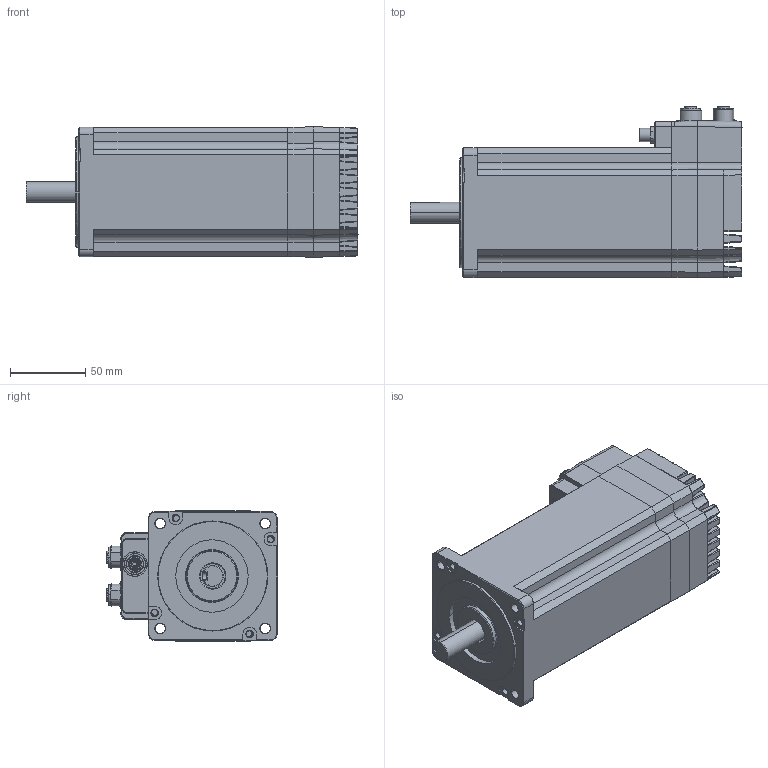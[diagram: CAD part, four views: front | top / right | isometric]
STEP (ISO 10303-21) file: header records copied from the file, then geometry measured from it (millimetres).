
FILE_DESCRIPTION((''),'2;1');
FILE_NAME('STEPPERASSY_ASM','2023-07-11T23:22:27',('KaviarasanNagaraj'),(''),'CREO PARAMETRIC BY PTC INC, 2021063','CREO PARAMETRIC BY PTC INC, 2021063','');
FILE_SCHEMA(('AUTOMOTIVE_DESIGN { 1 0 10303 214 1 1 1 1 }'));
Products named in the file (11): M34_CON_R1; M34_CON_R2; MIS34_F_CONNECTOR; MIS34_STO_PIN; M34_S14K; N34PIN1; N34PIN2; N34PIN3; N34PIN4; M34_ASM; STEPPERASSY_ASM
Assembly tree (10 placements, depth 3):
  STEPPERASSY_ASM
    M34_ASM
      M34_CON_R1
      M34_CON_R2
      MIS34_F_CONNECTOR
      MIS34_STO_PIN
      M34_S14K
      N34PIN1
      N34PIN2
      N34PIN3
      N34PIN4
Bounding box: 220.1 x 113.9 x 86.41 mm (x, y, z)
Volume: 1248644.9 mm3; surface area: 146261.1 mm2
Topology: 9 solids, 10 shells, 1418 faces, 3882 edges, 2407 vertices
Faces by surface type: plane 568, cylinder 559, sphere 111, cone 110, bspline 52, torus 10, extrusion 8
Entity records: 65955 total; most frequent: CARTESIAN_POINT 13469, DIRECTION 7677, ORIENTED_EDGE 7528, PRESENTATION_STYLE_ASSIGNMENT 4056, STYLED_ITEM 3809, CURVE_STYLE 3800, EDGE_CURVE 3764, AXIS2_PLACEMENT_3D 2889
